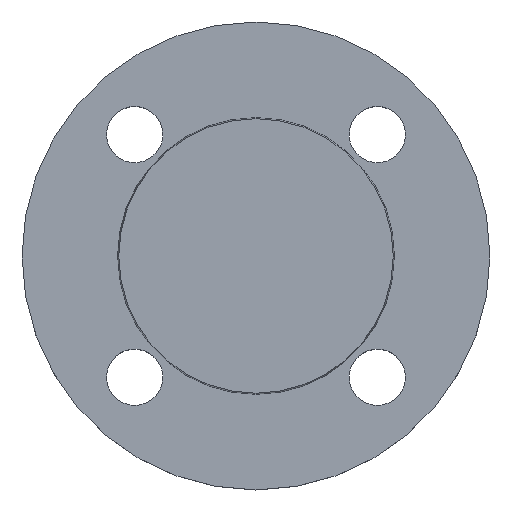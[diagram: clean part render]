
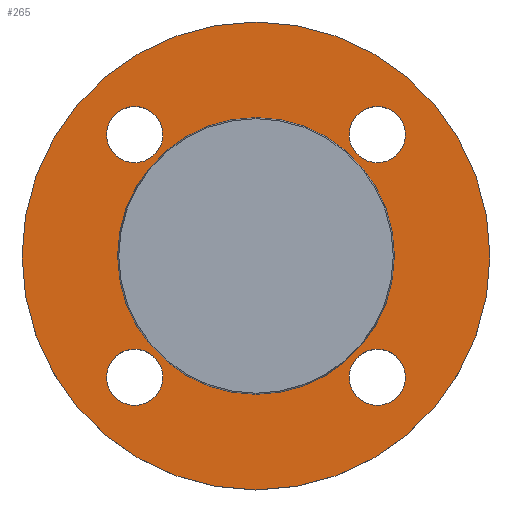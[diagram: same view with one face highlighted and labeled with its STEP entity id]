
A CAD part, top view. The second image highlights one B-rep face of the part: STEP entity #265.
In plain terms, the highlighted planar face has unit normal (0, 0, 1).
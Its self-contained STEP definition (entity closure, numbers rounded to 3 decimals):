
#4 = EDGE_CURVE ( 'NONE', #438, #408, #285, .T. ) ;
#8 = AXIS2_PLACEMENT_3D ( 'NONE', #525, #526, #527 ) ;
#14 = AXIS2_PLACEMENT_3D ( 'NONE', #594, #595, #597 ) ;
#17 = CIRCLE ( 'NONE', #183, 9. ) ;
#32 = EDGE_CURVE ( 'NONE', #321, #447, #179, .T. ) ;
#33 = AXIS2_PLACEMENT_3D ( 'NONE', #238, #239, #240 ) ;
#34 = AXIS2_PLACEMENT_3D ( 'NONE', #628, #632, #633 ) ;
#55 = CARTESIAN_POINT ( 'NONE',  ( -38.891, -38.891, -2. ) ) ;
#57 = CARTESIAN_POINT ( 'NONE',  ( -38.891, 38.891, -2. ) ) ;
#58 = DIRECTION ( 'NONE',  ( 1., 0., 0. ) ) ;
#69 = CIRCLE ( 'NONE', #33, 9. ) ;
#72 = CIRCLE ( 'NONE', #170, 9. ) ;
#80 = EDGE_CURVE ( 'NONE', #177, #425, #17, .T. ) ;
#83 = CIRCLE ( 'NONE', #34, 9. ) ;
#86 = DIRECTION ( 'NONE',  ( 0., 0., -1. ) ) ;
#90 = CIRCLE ( 'NONE', #14, 9. ) ;
#91 = EDGE_CURVE ( 'NONE', #448, #426, #193, .T. ) ;
#97 = DIRECTION ( 'NONE',  ( 0., 0., -1. ) ) ;
#100 = DIRECTION ( 'NONE',  ( 1., 0., 0. ) ) ;
#101 = CIRCLE ( 'NONE', #104, 75. ) ;
#104 = AXIS2_PLACEMENT_3D ( 'NONE', #606, #607, #608 ) ;
#108 = AXIS2_PLACEMENT_3D ( 'NONE', #620, #621, #622 ) ;
#126 = EDGE_CURVE ( 'NONE', #447, #321, #563, .T. ) ;
#133 = AXIS2_PLACEMENT_3D ( 'NONE', #536, #537, #538 ) ;
#135 = CIRCLE ( 'NONE', #253, 9. ) ;
#139 = EDGE_CURVE ( 'NONE', #421, #437, #150, .T. ) ;
#150 = CIRCLE ( 'NONE', #133, 75. ) ;
#169 = AXIS2_PLACEMENT_3D ( 'NONE', #501, #502, #503 ) ;
#170 = AXIS2_PLACEMENT_3D ( 'NONE', #55, #97, #58 ) ;
#171 = AXIS2_PLACEMENT_3D ( 'NONE', #470, #471, #472 ) ;
#173 = EDGE_LOOP ( 'NONE', ( #352, #353 ) ) ;
#176 = EDGE_LOOP ( 'NONE', ( #350, #351 ) ) ;
#177 = VERTEX_POINT ( 'NONE', #574 ) ;
#179 = CIRCLE ( 'NONE', #171, 44.353 ) ;
#180 = VERTEX_POINT ( 'NONE', #577 ) ;
#183 = AXIS2_PLACEMENT_3D ( 'NONE', #498, #499, #500 ) ;
#188 = EDGE_LOOP ( 'NONE', ( #356, #357 ) ) ;
#193 = CIRCLE ( 'NONE', #169, 9. ) ;
#198 = VERTEX_POINT ( 'NONE', #584 ) ;
#207 = CARTESIAN_POINT ( 'NONE',  ( -47.891, -38.891, -2. ) ) ;
#211 = CARTESIAN_POINT ( 'NONE',  ( 75., 0., -2. ) ) ;
#215 = CARTESIAN_POINT ( 'NONE',  ( 29.891, 38.891, -2. ) ) ;
#216 = CARTESIAN_POINT ( 'NONE',  ( 29.891, -38.891, -2. ) ) ;
#235 = CARTESIAN_POINT ( 'NONE',  ( -75., 0., -2. ) ) ;
#236 = CARTESIAN_POINT ( 'NONE',  ( -29.891, -38.891, -2. ) ) ;
#238 = CARTESIAN_POINT ( 'NONE',  ( 38.891, -38.891, -2. ) ) ;
#239 = DIRECTION ( 'NONE',  ( 0., 0., -1. ) ) ;
#240 = DIRECTION ( 'NONE',  ( 1., 0., 0. ) ) ;
#244 = CARTESIAN_POINT ( 'NONE',  ( -44.353, 0., -2. ) ) ;
#246 = CARTESIAN_POINT ( 'NONE',  ( 47.891, -38.891, -2. ) ) ;
#253 = AXIS2_PLACEMENT_3D ( 'NONE', #57, #86, #100 ) ;
#255 = EDGE_CURVE ( 'NONE', #425, #177, #90, .T. ) ;
#261 = EDGE_CURVE ( 'NONE', #437, #421, #101, .T. ) ;
#264 = EDGE_LOOP ( 'NONE', ( #354, #355 ) ) ;
#265 = ADVANCED_FACE ( 'NONE', ( #609, #610, #612, #613, #614, #616 ), #618, .T. ) ;
#272 = AXIS2_PLACEMENT_3D ( 'NONE', #453, #454, #455 ) ;
#283 = EDGE_CURVE ( 'NONE', #198, #180, #83, .T. ) ;
#285 = CIRCLE ( 'NONE', #272, 9. ) ;
#321 = VERTEX_POINT ( 'NONE', #640 ) ;
#348 = ORIENTED_EDGE ( 'NONE', *, *, #91, .T. ) ;
#349 = ORIENTED_EDGE ( 'NONE', *, *, #445, .T. ) ;
#350 = ORIENTED_EDGE ( 'NONE', *, *, #4, .T. ) ;
#351 = ORIENTED_EDGE ( 'NONE', *, *, #611, .T. ) ;
#352 = ORIENTED_EDGE ( 'NONE', *, *, #283, .T. ) ;
#353 = ORIENTED_EDGE ( 'NONE', *, *, #645, .T. ) ;
#354 = ORIENTED_EDGE ( 'NONE', *, *, #80, .T. ) ;
#355 = ORIENTED_EDGE ( 'NONE', *, *, #255, .T. ) ;
#356 = ORIENTED_EDGE ( 'NONE', *, *, #126, .T. ) ;
#357 = ORIENTED_EDGE ( 'NONE', *, *, #32, .T. ) ;
#358 = ORIENTED_EDGE ( 'NONE', *, *, #139, .F. ) ;
#359 = ORIENTED_EDGE ( 'NONE', *, *, #261, .F. ) ;
#406 = EDGE_LOOP ( 'NONE', ( #358, #359 ) ) ;
#408 = VERTEX_POINT ( 'NONE', #207 ) ;
#412 = EDGE_LOOP ( 'NONE', ( #348, #349 ) ) ;
#421 = VERTEX_POINT ( 'NONE', #211 ) ;
#425 = VERTEX_POINT ( 'NONE', #215 ) ;
#426 = VERTEX_POINT ( 'NONE', #216 ) ;
#437 = VERTEX_POINT ( 'NONE', #235 ) ;
#438 = VERTEX_POINT ( 'NONE', #236 ) ;
#445 = EDGE_CURVE ( 'NONE', #426, #448, #69, .T. ) ;
#447 = VERTEX_POINT ( 'NONE', #244 ) ;
#448 = VERTEX_POINT ( 'NONE', #246 ) ;
#453 = CARTESIAN_POINT ( 'NONE',  ( -38.891, -38.891, -2. ) ) ;
#454 = DIRECTION ( 'NONE',  ( 0., 0., -1. ) ) ;
#455 = DIRECTION ( 'NONE',  ( 1., 0., 0. ) ) ;
#470 = CARTESIAN_POINT ( 'NONE',  ( 0., 0., -2. ) ) ;
#471 = DIRECTION ( 'NONE',  ( 0., 0., -1. ) ) ;
#472 = DIRECTION ( 'NONE',  ( -1., 0., 0. ) ) ;
#498 = CARTESIAN_POINT ( 'NONE',  ( 38.891, 38.891, -2. ) ) ;
#499 = DIRECTION ( 'NONE',  ( 0., 0., -1. ) ) ;
#500 = DIRECTION ( 'NONE',  ( 1., 0., 0. ) ) ;
#501 = CARTESIAN_POINT ( 'NONE',  ( 38.891, -38.891, -2. ) ) ;
#502 = DIRECTION ( 'NONE',  ( 0., 0., -1. ) ) ;
#503 = DIRECTION ( 'NONE',  ( 1., 0., 0. ) ) ;
#525 = CARTESIAN_POINT ( 'NONE',  ( 0., 0., -2. ) ) ;
#526 = DIRECTION ( 'NONE',  ( 0., 0., -1. ) ) ;
#527 = DIRECTION ( 'NONE',  ( -1., 0., 0. ) ) ;
#536 = CARTESIAN_POINT ( 'NONE',  ( 0., 0., -2. ) ) ;
#537 = DIRECTION ( 'NONE',  ( 0., 0., -1. ) ) ;
#538 = DIRECTION ( 'NONE',  ( -1., 0., 0. ) ) ;
#563 = CIRCLE ( 'NONE', #8, 44.353 ) ;
#574 = CARTESIAN_POINT ( 'NONE',  ( 47.891, 38.891, -2. ) ) ;
#577 = CARTESIAN_POINT ( 'NONE',  ( -47.891, 38.891, -2. ) ) ;
#584 = CARTESIAN_POINT ( 'NONE',  ( -29.891, 38.891, -2. ) ) ;
#594 = CARTESIAN_POINT ( 'NONE',  ( 38.891, 38.891, -2. ) ) ;
#595 = DIRECTION ( 'NONE',  ( 0., 0., -1. ) ) ;
#597 = DIRECTION ( 'NONE',  ( 1., 0., 0. ) ) ;
#606 = CARTESIAN_POINT ( 'NONE',  ( 0., 0., -2. ) ) ;
#607 = DIRECTION ( 'NONE',  ( 0., 0., -1. ) ) ;
#608 = DIRECTION ( 'NONE',  ( -1., 0., 0. ) ) ;
#609 = FACE_BOUND ( 'NONE', #412, .T. ) ;
#610 = FACE_BOUND ( 'NONE', #176, .T. ) ;
#611 = EDGE_CURVE ( 'NONE', #408, #438, #72, .T. ) ;
#612 = FACE_BOUND ( 'NONE', #173, .T. ) ;
#613 = FACE_BOUND ( 'NONE', #264, .T. ) ;
#614 = FACE_BOUND ( 'NONE', #188, .T. ) ;
#616 = FACE_OUTER_BOUND ( 'NONE', #406, .T. ) ;
#618 = PLANE ( 'NONE',  #108 ) ;
#620 = CARTESIAN_POINT ( 'NONE',  ( 44.353, 0., -2. ) ) ;
#621 = DIRECTION ( 'NONE',  ( 0., 0., 1. ) ) ;
#622 = DIRECTION ( 'NONE',  ( 1., 0., 0. ) ) ;
#628 = CARTESIAN_POINT ( 'NONE',  ( -38.891, 38.891, -2. ) ) ;
#632 = DIRECTION ( 'NONE',  ( 0., 0., -1. ) ) ;
#633 = DIRECTION ( 'NONE',  ( 1., 0., 0. ) ) ;
#640 = CARTESIAN_POINT ( 'NONE',  ( 44.353, 0., -2. ) ) ;
#645 = EDGE_CURVE ( 'NONE', #180, #198, #135, .T. ) ;
